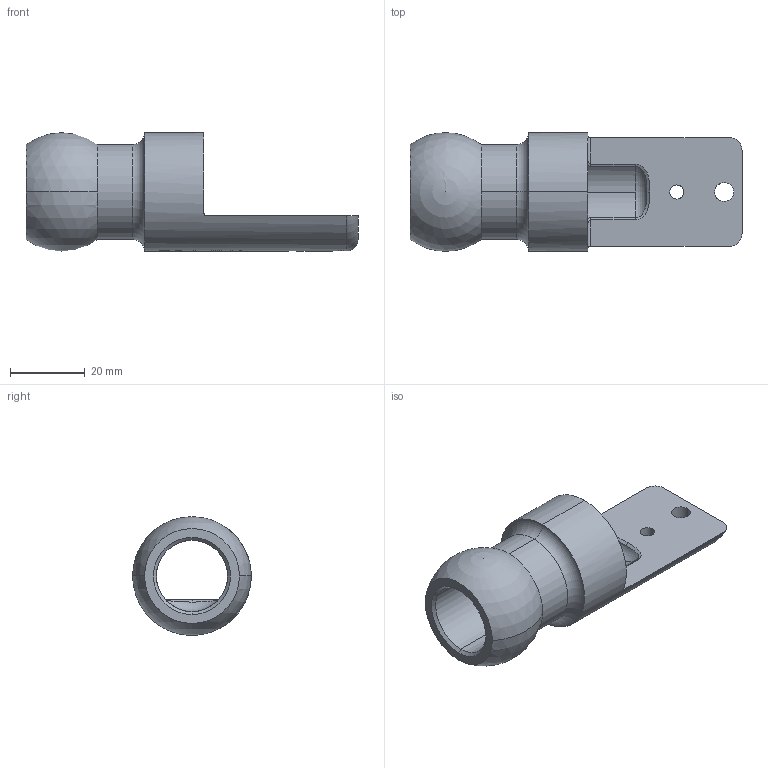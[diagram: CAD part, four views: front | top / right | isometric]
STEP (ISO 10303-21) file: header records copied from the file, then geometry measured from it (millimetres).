
FILE_DESCRIPTION (( 'STEP AP214' ), '1' );
FILE_NAME ('AFSB-SBH.STEP', '2018-12-05T18:41:22', ( '' ), ( '' ), 'SwSTEP 2.0', 'SolidWorks 2018', '' );
FILE_SCHEMA (( 'AUTOMOTIVE_DESIGN' ));
Length unit declared in the file: inch
Products named in the file (2): AFSB-SBH
Bounding box: 88.9 x 31.75 x 31.75 mm (x, y, z)
Volume: 26253.2 mm3; surface area: 11138.3 mm2
Topology: 1 solids, 1 shells, 116 faces, 1177 edges, 1111 vertices
Faces by surface type: cylinder 97, plane 6, torus 4, bspline 4, cone 3, sphere 2
Entity records: 14111 total; most frequent: CARTESIAN_POINT 6046, ORIENTED_EDGE 2344, EDGE_CURVE 1172, VERTEX_POINT 1108, DIRECTION 965, B_SPLINE_CURVE_WITH_KNOTS 665, AXIS2_PLACEMENT_3D 344, LINE 277
